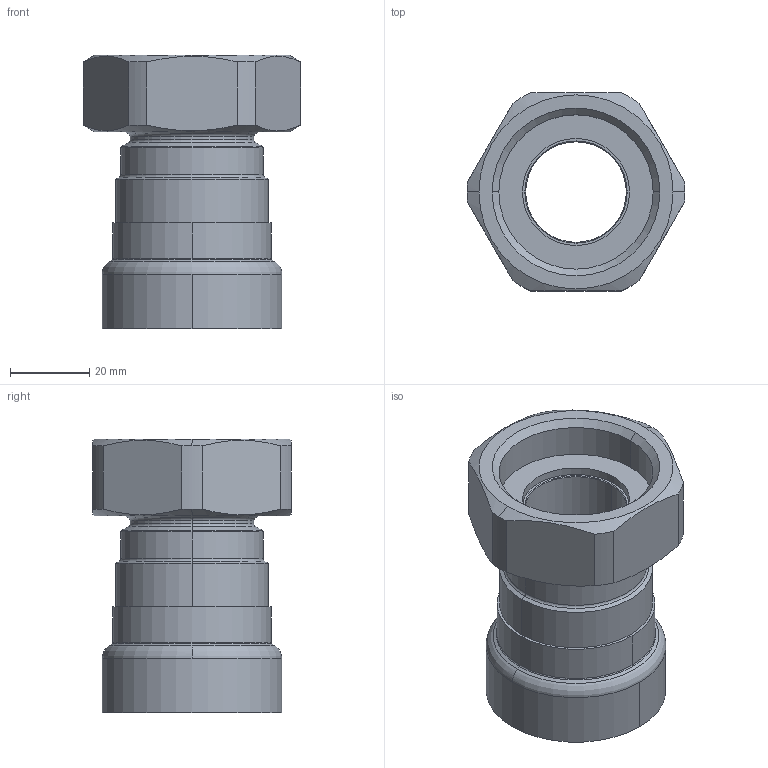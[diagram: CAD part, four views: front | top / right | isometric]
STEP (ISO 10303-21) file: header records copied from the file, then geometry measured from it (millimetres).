
FILE_DESCRIPTION(('Creo Elements/Direct Modeling STEP Export'),'2;1');
FILE_NAME('C9446_1_G1-1-4.stp','2020-07-20T14:25:55',(''),(''),'PTC Creo Elements/Direct Modeling STEP processor for AP214 (Solid Model)','PTC Creo Elements/Direct Modeling 19.0C 15-Aug-2015 (C) Parametric Technology GmbH','');
FILE_SCHEMA(('AUTOMOTIVE_DESIGN { 1 0 10303 214 1 1 1 1 }'));
Length unit declared in the file: millimetre
Products named in the file (1): C9446_1_G1-1-4
Bounding box: 55 x 50 x 69.12 mm (x, y, z)
Volume: 46991.5 mm3; surface area: 20711.6 mm2
Topology: 1 solids, 1 shells, 65 faces, 148 edges, 90 vertices
Faces by surface type: cylinder 24, cone 16, plane 13, torus 12
Entity records: 2670 total; most frequent: CARTESIAN_POINT 1236, ORIENTED_EDGE 296, DIRECTION 278, EDGE_CURVE 148, AXIS2_PLACEMENT_3D 116, VERTEX_POINT 90, EDGE_LOOP 72, FACE_OUTER_BOUND 65
